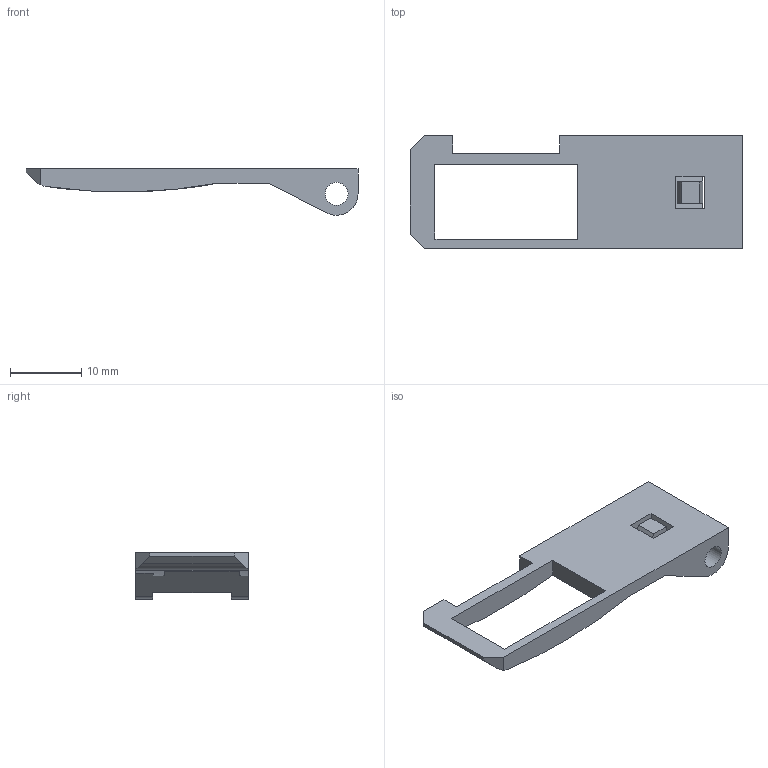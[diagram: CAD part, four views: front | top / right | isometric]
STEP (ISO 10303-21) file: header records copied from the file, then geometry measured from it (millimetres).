
FILE_DESCRIPTION(('FreeCAD Model'),'2;1');
FILE_NAME('Open CASCADE Shape Model','2026-07-02T18:46:07',('FreeCAD'),( 'FreeCAD'),'Open CASCADE STEP processor 7.8','FreeCAD','Unknown');
FILE_SCHEMA(('AUTOMOTIVE_DESIGN { 1 0 10303 214 1 1 1 1 }'));
Length unit declared in the file: millimetre
Products named in the file (1): Open CASCADE STEP translator 7.8 2
Bounding box: 46.5 x 15.8 x 6.5 mm (x, y, z)
Volume: 1272.5 mm3; surface area: 1723.4 mm2
Topology: 1 solids, 1 shells, 40 faces, 117 edges, 78 vertices
Faces by surface type: plane 30, cylinder 10
Full cylindrical faces by diameter (mm): 3.2 x2
Entity records: 1357 total; most frequent: CARTESIAN_POINT 236, ORIENTED_EDGE 234, DIRECTION 229, EDGE_CURVE 117, LINE 87, VECTOR 87, VERTEX_POINT 78, AXIS2_PLACEMENT_3D 71
